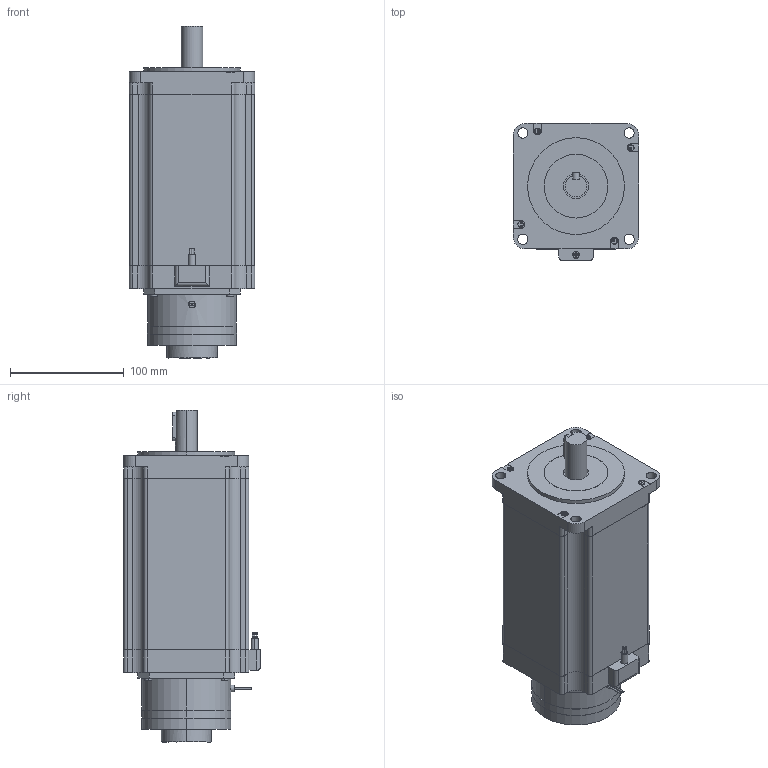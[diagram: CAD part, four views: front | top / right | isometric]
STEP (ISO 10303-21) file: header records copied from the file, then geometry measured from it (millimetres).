
FILE_DESCRIPTION (( 'STEP AP203' ), '1' );
FILE_NAME ('UB110D24-E50-3203.STEP', '2019-10-25T06:15:38', ( 'China' ), ( 'Home' ), 'SwSTEP 2.0', 'SolidWorks 2016', '' );
FILE_SCHEMA (( 'CONFIG_CONTROL_DESIGN' ));
Length unit declared in the file: millimetre
Products named in the file (1): UB110D24-E50-3203
Bounding box: 110 x 120 x 291.5 mm (x, y, z)
Volume: 2389206.9 mm3; surface area: 144895.4 mm2
Topology: 2 solids, 2 shells, 289 faces, 749 edges, 498 vertices
Faces by surface type: plane 183, cylinder 106
Entity records: 9125 total; most frequent: CARTESIAN_POINT 1773, DIRECTION 1514, ORIENTED_EDGE 1498, EDGE_CURVE 749, VECTOR 532, LINE 532, VERTEX_POINT 498, AXIS2_PLACEMENT_3D 491
